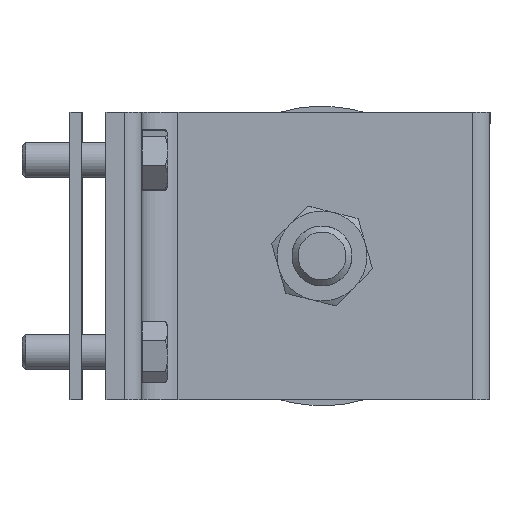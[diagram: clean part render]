
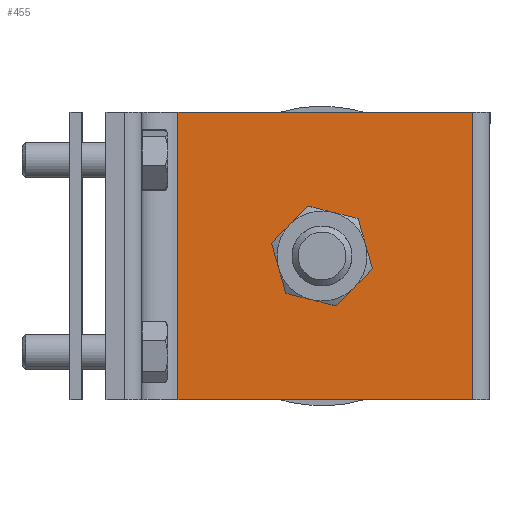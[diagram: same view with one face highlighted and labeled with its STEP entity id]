
A CAD part, front view. The second image highlights one B-rep face of the part: STEP entity #455.
In plain terms, the highlighted planar face has unit normal (0, -1, 0) as drawn and (0, 1, 0) by its records, which use the part's own axes.
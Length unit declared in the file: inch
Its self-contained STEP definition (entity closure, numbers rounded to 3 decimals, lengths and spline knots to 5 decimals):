
#281=CARTESIAN_POINT('',(1.90625,0.375,1.5));
#282=VERTEX_POINT('',#281);
#283=CARTESIAN_POINT('',(2.25,0.375,1.5));
#284=DIRECTION('',(0.0,-1.0,0.0));
#285=DIRECTION('',(1.0,0.0,0.0));
#286=AXIS2_PLACEMENT_3D('',#283,#284,#285);
#287=CIRCLE('',#286,0.34375);
#288=EDGE_CURVE('',#282,#282,#287,.T.);
#394=CARTESIAN_POINT('',(0.75,0.375,3.0));
#395=VERTEX_POINT('',#394);
#403=CARTESIAN_POINT('',(0.75,0.375,0.0));
#404=VERTEX_POINT('',#403);
#405=CARTESIAN_POINT('',(0.75,0.375,0.0));
#406=DIRECTION('',(0.0,0.0,1.0));
#407=VECTOR('',#406,3.0);
#408=LINE('',#405,#407);
#409=EDGE_CURVE('',#404,#395,#408,.T.);
#422=CARTESIAN_POINT('',(0.75,0.375,0.0));
#423=DIRECTION('',(0.0,1.0,0.0));
#424=DIRECTION('',(0.0,0.0,1.0));
#425=AXIS2_PLACEMENT_3D('',#422,#423,#424);
#426=PLANE('',#425);
#427=CARTESIAN_POINT('',(3.82,0.375,3.0));
#428=VERTEX_POINT('',#427);
#429=CARTESIAN_POINT('',(0.75,0.375,3.0));
#430=DIRECTION('',(1.0,0.0,0.0));
#431=VECTOR('',#430,3.07);
#432=LINE('',#429,#431);
#433=EDGE_CURVE('',#395,#428,#432,.T.);
#434=ORIENTED_EDGE('',*,*,#433,.T.);
#435=CARTESIAN_POINT('',(3.82,0.375,0.0));
#436=VERTEX_POINT('',#435);
#437=CARTESIAN_POINT('',(3.82,0.375,0.0));
#438=DIRECTION('',(0.0,0.0,1.0));
#439=VECTOR('',#438,3.0);
#440=LINE('',#437,#439);
#441=EDGE_CURVE('',#436,#428,#440,.T.);
#442=ORIENTED_EDGE('',*,*,#441,.F.);
#443=CARTESIAN_POINT('',(0.75,0.375,0.0));
#444=DIRECTION('',(1.0,0.0,0.0));
#445=VECTOR('',#444,3.07);
#446=LINE('',#443,#445);
#447=EDGE_CURVE('',#404,#436,#446,.T.);
#448=ORIENTED_EDGE('',*,*,#447,.F.);
#449=ORIENTED_EDGE('',*,*,#409,.T.);
#450=EDGE_LOOP('',(#434,#442,#448,#449));
#451=FACE_OUTER_BOUND('',#450,.T.);
#452=ORIENTED_EDGE('',*,*,#288,.T.);
#453=EDGE_LOOP('',(#452));
#454=FACE_BOUND('',#453,.T.);
#455=ADVANCED_FACE('',(#451,#454),#426,.T.);
